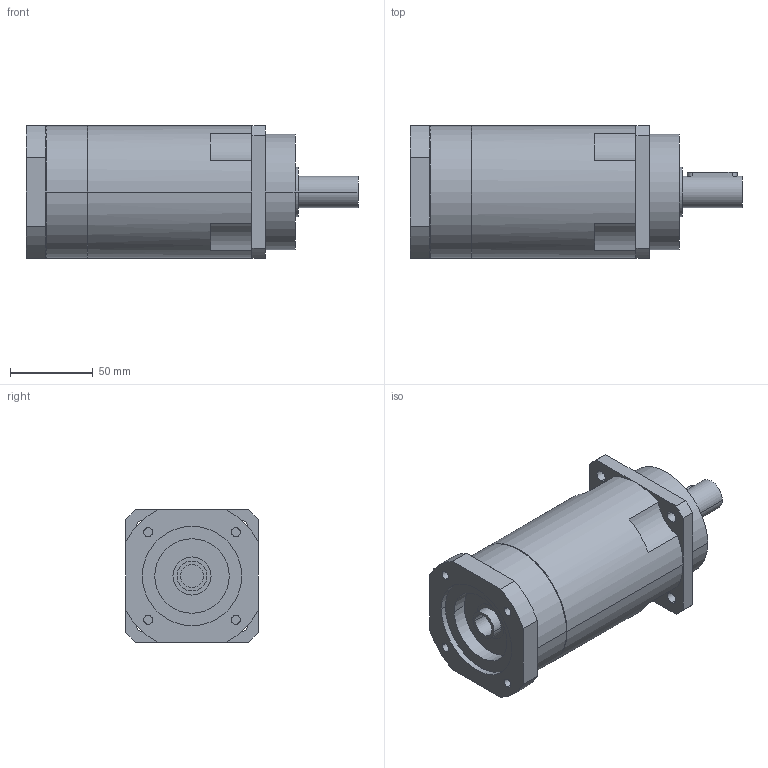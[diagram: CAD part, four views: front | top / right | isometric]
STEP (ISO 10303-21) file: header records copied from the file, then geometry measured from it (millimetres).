
FILE_DESCRIPTION(('CoCreate Modeling STEP Export'),'2;1');
FILE_NAME('GPR100_ig-48-64-80-100-120-144-180-216_19_B5_14_P03.stp','2014-08-26T11:54:59',(''),(''),'CoCreate Modeling STEP processor for AP214 (Solid Model)','CoCreate Modeling 16.00C 25-Feb-2009 (C) Parametric Technology GmbH','');
FILE_SCHEMA(('AUTOMOTIVE_DESIGN { 1 0 10303 214 1 1 1 1 }'));
Length unit declared in the file: millimetre
Products named in the file (2): GPR100_ig-48-64-80-100-120-144-180-216_19_B5_14_P03
Assembly tree (1 placements, depth 2):
  GPR100_ig-48-64-80-100-120-144-180-216_19_B5_14_P03
    GPR100_ig-48-64-80-100-120-144-180-216_19_B5_14_P03
Bounding box: 200.4 x 80 x 80 mm (x, y, z)
Volume: 788788.5 mm3; surface area: 64050.3 mm2
Topology: 1 solids, 1 shells, 105 faces, 299 edges, 205 vertices
Faces by surface type: cylinder 60, plane 39, cone 6
Entity records: 3145 total; most frequent: CARTESIAN_POINT 643, ORIENTED_EDGE 594, DIRECTION 436, EDGE_CURVE 297, VERTEX_POINT 205, AXIS2_PLACEMENT_3D 166, EDGE_LOOP 132, FACE_OUTER_BOUND 105
